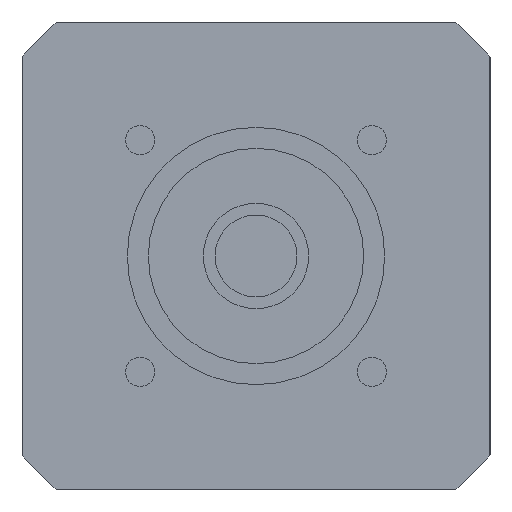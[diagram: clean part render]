
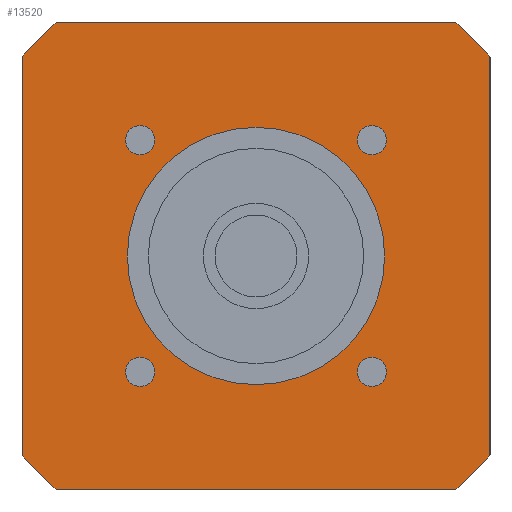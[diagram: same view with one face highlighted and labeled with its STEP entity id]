
A CAD part, left-side view. The second image highlights one B-rep face of the part: STEP entity #13520.
In plain terms, the highlighted planar face has unit normal (-1, 0, 0) as drawn and (0, 0, -1) by its records, which use the part's own axes.
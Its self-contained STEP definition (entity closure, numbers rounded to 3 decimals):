
#8700=CARTESIAN_POINT('',(-34.004,-40.,-44.2));
#8710=VERTEX_POINT('',#8700);
#8860=CARTESIAN_POINT('',(34.004,-40.,-44.2));
#8870=VERTEX_POINT('',#8860);
#8900=CARTESIAN_POINT('',(-40.,-40.,-44.2));
#8910=DIRECTION('',(1.,0.,0.));
#8920=VECTOR('',#8910,1000.);
#8930=LINE('',#8900,#8920);
#8940=EDGE_CURVE('',#8710,#8870,#8930,.T.);
#9100=CARTESIAN_POINT('',(40.,-34.004,-44.2));
#9110=VERTEX_POINT('',#9100);
#9140=CARTESIAN_POINT('',(0.,0.,
-44.2));
#9150=DIRECTION('',(0.,0.,1.));
#9160=DIRECTION('',(1.,0.,0.));
#9170=AXIS2_PLACEMENT_3D('',#9140,#9150,#9160);
#9180=CIRCLE('',#9170,52.5);
#9190=EDGE_CURVE('',#8870,#9110,#9180,.T.);
#11860=CARTESIAN_POINT('',(40.,34.004,-44.2));
#11870=VERTEX_POINT('',#11860);
#11950=CARTESIAN_POINT('',(34.004,40.,-44.2));
#11960=VERTEX_POINT('',#11950);
#11990=CARTESIAN_POINT('',(0.,0.,
-44.2));
#12000=DIRECTION('',(0.,0.,1.));
#12010=DIRECTION('',(1.,0.,0.));
#12020=AXIS2_PLACEMENT_3D('',#11990,#12000,#12010);
#12030=CIRCLE('',#12020,52.5);
#12040=EDGE_CURVE('',#11870,#11960,#12030,.T.);
#12090=CARTESIAN_POINT('',(40.,40.,-44.2));
#12100=DIRECTION('',(0.,0.,1.));
#12110=DIRECTION('',(0.,1.,0.));
#12120=AXIS2_PLACEMENT_3D('',#12090,#12100,#12110);
#12130=PLANE('',#12120);
#12140=CARTESIAN_POINT('',(0.,0.,
-44.2));
#12150=DIRECTION('',(0.,0.,1.));
#12160=DIRECTION('',(1.,0.,0.));
#12170=AXIS2_PLACEMENT_3D('',#12140,#12150,#12160);
#12180=CIRCLE('',#12170,52.5);
#12190=CARTESIAN_POINT('',(-34.004,40.,-44.2));
#12200=VERTEX_POINT('',#12190);
#12210=CARTESIAN_POINT('',(-40.,34.004,-44.2));
#12220=VERTEX_POINT('',#12210);
#12230=EDGE_CURVE('',#12200,#12220,#12180,.T.);
#12240=ORIENTED_EDGE('',*,*,#12230,.F.);
#12250=CARTESIAN_POINT('',(-40.,40.,-44.2));
#12260=DIRECTION('',(0.,-1.,0.));
#12270=VECTOR('',#12260,1000.);
#12280=LINE('',#12250,#12270);
#12290=CARTESIAN_POINT('',(-40.,-34.004,-44.2));
#12300=VERTEX_POINT('',#12290);
#12310=EDGE_CURVE('',#12220,#12300,#12280,.T.);
#12320=ORIENTED_EDGE('',*,*,#12310,.F.);
#12330=CARTESIAN_POINT('',(0.,0.,
-44.2));
#12340=DIRECTION('',(0.,0.,1.));
#12350=DIRECTION('',(1.,0.,0.));
#12360=AXIS2_PLACEMENT_3D('',#12330,#12340,#12350);
#12370=CIRCLE('',#12360,52.5);
#12380=EDGE_CURVE('',#12300,#8710,#12370,.T.);
#12390=ORIENTED_EDGE('',*,*,#12380,.F.);
#12400=ORIENTED_EDGE('',*,*,#8940,.F.);
#12410=ORIENTED_EDGE('',*,*,#9190,.F.);
#12420=CARTESIAN_POINT('',(40.,-40.,-44.2));
#12430=DIRECTION('',(0.,1.,0.));
#12440=VECTOR('',#12430,1000.);
#12450=LINE('',#12420,#12440);
#12460=EDGE_CURVE('',#9110,#11870,#12450,.T.);
#12470=ORIENTED_EDGE('',*,*,#12460,.F.);
#12480=ORIENTED_EDGE('',*,*,#12040,.F.);
#12490=CARTESIAN_POINT('',(40.,40.,-44.2));
#12500=DIRECTION('',(-1.,0.,0.));
#12510=VECTOR('',#12500,1000.);
#12520=LINE('',#12490,#12510);
#12530=EDGE_CURVE('',#11960,#12200,#12520,.T.);
#12540=ORIENTED_EDGE('',*,*,#12530,.F.);
#12550=EDGE_LOOP('',(#12540,#12480,#12470,#12410,#12400,#12390,#12320,
#12240));
#12560=FACE_OUTER_BOUND('',#12550,.T.);
#12570=CARTESIAN_POINT('',(-19.799,19.799,-44.2));
#12580=DIRECTION('',(0.,0.,-1.));
#12590=DIRECTION('',(1.,0.,0.));
#12600=AXIS2_PLACEMENT_3D('',#12570,#12580,#12590);
#12610=CIRCLE('',#12600,2.5);
#12620=CARTESIAN_POINT('',(-17.299,19.799,-44.2));
#12630=VERTEX_POINT('',#12620);
#12640=CARTESIAN_POINT('',(-19.799,17.299,-44.2));
#12650=VERTEX_POINT('',#12640);
#12660=EDGE_CURVE('',#12630,#12650,#12610,.T.);
#12670=ORIENTED_EDGE('',*,*,#12660,.F.);
#12680=CARTESIAN_POINT('',(-19.799,22.299,-44.2));
#12690=VERTEX_POINT('',#12680);
#12700=EDGE_CURVE('',#12650,#12690,#12610,.T.);
#12710=ORIENTED_EDGE('',*,*,#12700,.F.);
#12720=EDGE_CURVE('',#12690,#12630,#12610,.T.);
#12730=ORIENTED_EDGE('',*,*,#12720,.F.);
#12740=EDGE_LOOP('',(#12730,#12710,#12670));
#12750=FACE_BOUND('',#12740,.T.);
#12760=CARTESIAN_POINT('',(19.799,19.799,-44.2));
#12770=DIRECTION('',(0.,0.,-1.));
#12780=DIRECTION('',(1.,0.,0.));
#12790=AXIS2_PLACEMENT_3D('',#12760,#12770,#12780);
#12800=CIRCLE('',#12790,2.5);
#12810=CARTESIAN_POINT('',(22.299,19.799,-44.2));
#12820=VERTEX_POINT('',#12810);
#12830=CARTESIAN_POINT('',(19.799,17.299,-44.2));
#12840=VERTEX_POINT('',#12830);
#12850=EDGE_CURVE('',#12820,#12840,#12800,.T.);
#12860=ORIENTED_EDGE('',*,*,#12850,.F.);
#12870=CARTESIAN_POINT('',(19.799,22.299,-44.2));
#12880=VERTEX_POINT('',#12870);
#12890=EDGE_CURVE('',#12840,#12880,#12800,.T.);
#12900=ORIENTED_EDGE('',*,*,#12890,.F.);
#12910=EDGE_CURVE('',#12880,#12820,#12800,.T.);
#12920=ORIENTED_EDGE('',*,*,#12910,.F.);
#12930=EDGE_LOOP('',(#12920,#12900,#12860));
#12940=FACE_BOUND('',#12930,.T.);
#12950=CARTESIAN_POINT('',(19.799,-19.799,-44.2));
#12960=DIRECTION('',(0.,0.,-1.));
#12970=DIRECTION('',(1.,0.,0.));
#12980=AXIS2_PLACEMENT_3D('',#12950,#12960,#12970);
#12990=CIRCLE('',#12980,2.5);
#13000=CARTESIAN_POINT('',(22.299,-19.799,-44.2));
#13010=VERTEX_POINT('',#13000);
#13020=CARTESIAN_POINT('',(19.799,-22.299,-44.2));
#13030=VERTEX_POINT('',#13020);
#13040=EDGE_CURVE('',#13010,#13030,#12990,.T.);
#13050=ORIENTED_EDGE('',*,*,#13040,.F.);
#13060=CARTESIAN_POINT('',(19.799,-17.299,-44.2));
#13070=VERTEX_POINT('',#13060);
#13080=EDGE_CURVE('',#13030,#13070,#12990,.T.);
#13090=ORIENTED_EDGE('',*,*,#13080,.F.);
#13100=EDGE_CURVE('',#13070,#13010,#12990,.T.);
#13110=ORIENTED_EDGE('',*,*,#13100,.F.);
#13120=EDGE_LOOP('',(#13110,#13090,#13050));
#13130=FACE_BOUND('',#13120,.T.);
#13140=CARTESIAN_POINT('',(-19.799,-19.799,-44.2));
#13150=DIRECTION('',(0.,0.,-1.));
#13160=DIRECTION('',(1.,0.,0.));
#13170=AXIS2_PLACEMENT_3D('',#13140,#13150,#13160);
#13180=CIRCLE('',#13170,2.5);
#13190=CARTESIAN_POINT('',(-17.299,-19.799,-44.2));
#13200=VERTEX_POINT('',#13190);
#13210=CARTESIAN_POINT('',(-19.799,-22.299,-44.2));
#13220=VERTEX_POINT('',#13210);
#13230=EDGE_CURVE('',#13200,#13220,#13180,.T.);
#13240=ORIENTED_EDGE('',*,*,#13230,.F.);
#13250=CARTESIAN_POINT('',(-19.799,-17.299,-44.2));
#13260=VERTEX_POINT('',#13250);
#13270=EDGE_CURVE('',#13220,#13260,#13180,.T.);
#13280=ORIENTED_EDGE('',*,*,#13270,.F.);
#13290=EDGE_CURVE('',#13260,#13200,#13180,.T.);
#13300=ORIENTED_EDGE('',*,*,#13290,.F.);
#13310=EDGE_LOOP('',(#13300,#13280,#13240));
#13320=FACE_BOUND('',#13310,.T.);
#13330=CARTESIAN_POINT('',(0.,0.,
-44.2));
#13340=DIRECTION('',(0.,0.,1.));
#13350=DIRECTION('',(1.,0.,0.));
#13360=AXIS2_PLACEMENT_3D('',#13330,#13340,#13350);
#13370=CIRCLE('',#13360,22.);
#13380=CARTESIAN_POINT('',(0.,22.,-44.2));
#13390=VERTEX_POINT('',#13380);
#13400=CARTESIAN_POINT('',(0.,-22.,-44.2));
#13410=VERTEX_POINT('',#13400);
#13420=EDGE_CURVE('',#13390,#13410,#13370,.T.);
#13430=ORIENTED_EDGE('',*,*,#13420,.T.);
#13440=CARTESIAN_POINT('',(22.,0.,-44.2));
#13450=VERTEX_POINT('',#13440);
#13460=EDGE_CURVE('',#13450,#13390,#13370,.T.);
#13470=ORIENTED_EDGE('',*,*,#13460,.T.);
#13480=EDGE_CURVE('',#13410,#13450,#13370,.T.);
#13490=ORIENTED_EDGE('',*,*,#13480,.T.);
#13500=EDGE_LOOP('',(#13490,#13470,#13430));
#13510=FACE_BOUND('',#13500,.T.);
#13520=ADVANCED_FACE('',(#12560,#12750,#12940,#13130,#13320,#13510),
#12130,.F.);
